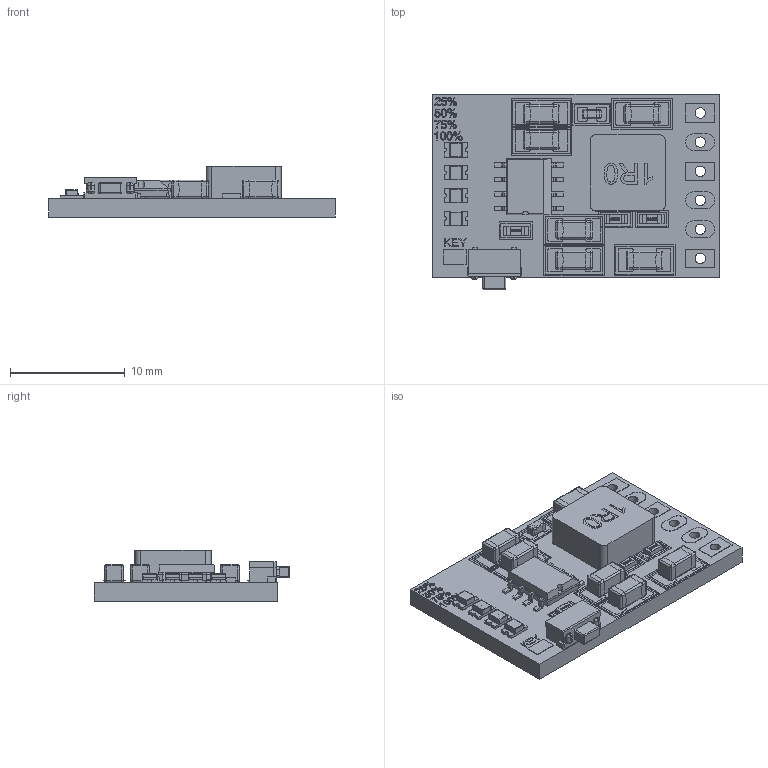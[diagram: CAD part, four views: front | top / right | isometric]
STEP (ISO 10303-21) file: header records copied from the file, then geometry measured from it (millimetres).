
FILE_DESCRIPTION(/* description */ (''),/* implementation_level */ '2;1');
FILE_NAME(/* name */ 'C:/Users/Kenneth/Downloads/MH-CD42.step',/* time_stamp */ '2022-10-16T20:28:26-05:00',/* author */ (''),/* organization */ (''),/* preprocessor_version */ 'ST-DEVELOPER v19',/* originating_system */ 'Autodesk Translation Framework v11.7.0.108',/* authorisation */ '');
FILE_SCHEMA (('AUTOMOTIVE_DESIGN { 1 0 10303 214 3 1 1 }'));
Products named in the file (25): MH-CD42; C1206; C0603; sop8 v1; User Library-sop8_model_sop8_body; User Library-sop8_model_pin5to8_sop8; R0603; 0805 Blue; 0805 Blue_1; 0805 Blue_2; 0805 Blue_3; 0805 Blue_4; 0805 Blue_5; 0805 Blue_6; 0805 Blue_7; Light; Body; Anode Bottom; Cathode Bottom; Anode; Cathode; Base; smt switch; 1R0 Inductor; board
Assembly tree (59 placements, depth 4):
  MH-CD42
    C1206  x6
    C0603
    R0603  x3
    sop8 v1
      User Library-sop8_model_pin5to8_sop8  x8
      User Library-sop8_model_sop8_body
    0805 Blue
      0805 Blue_1
        Light
        Body
        Anode Bottom
        Cathode Bottom
        Anode
        Cathode
        Base
    0805 Blue_2
      0805 Blue_3
        Light
        Body
        Anode Bottom
        Cathode Bottom
        Anode
        Cathode
        Base
    0805 Blue_4
      0805 Blue_5
        Light
        Body
        Anode Bottom
        Cathode Bottom
        Anode
        Cathode
        Base
    0805 Blue_6
      0805 Blue_7
        Light
        Body
        Anode Bottom
        Cathode Bottom
        Anode
        Cathode
        Base
    smt switch
    1R0 Inductor
    board
Bounding box: 25 x 17.1 x 4.47 mm (x, y, z)
Volume: 865.9 mm3; surface area: 1683.3 mm2
Topology: 103 solids, 103 shells, 3217 faces, 8243 edges, 5288 vertices
Faces by surface type: plane 1449, bspline 1091, cylinder 581, sphere 72, torus 24
Full cylindrical faces by diameter (mm): 0.5 x2, 0.9 x6
Entity records: 77486 total; most frequent: CARTESIAN_POINT 31089, ORIENTED_EDGE 10920, DIRECTION 6305, EDGE_CURVE 5460, VERTEX_POINT 3580, LINE 3169, VECTOR 3169, EDGE_LOOP 2224
